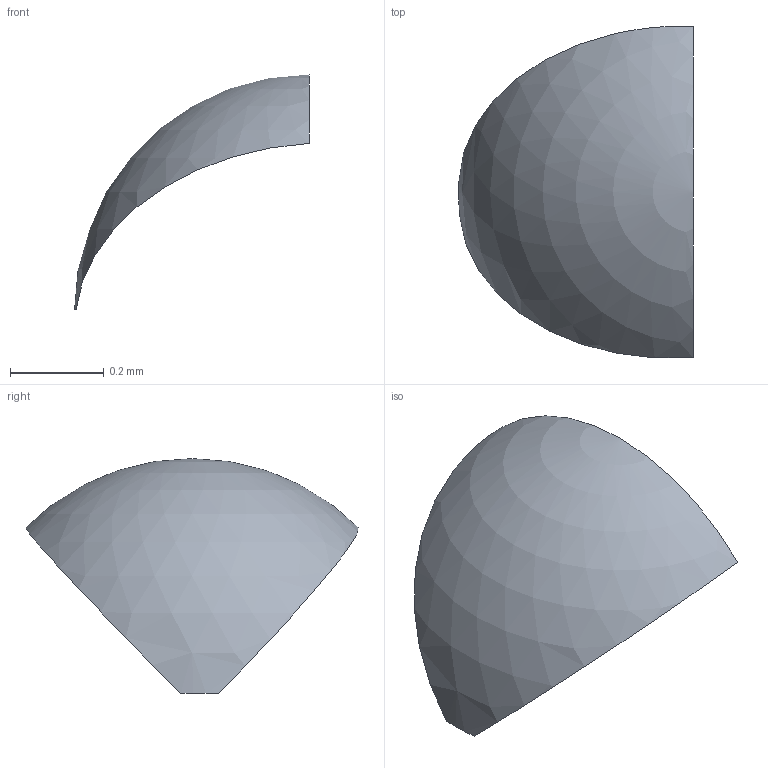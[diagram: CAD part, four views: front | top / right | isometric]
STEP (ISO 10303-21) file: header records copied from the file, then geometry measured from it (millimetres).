
FILE_DESCRIPTION(('BRL-CAD AP203 shifted four-arc spherical cap fixture'),'2;1');
FILE_NAME('ap203_shifted_four_arc_spherical_cap.stp','2026-07-23T00:00:00',('BRL-CAD'),('BRL-CAD'),'','','');
FILE_SCHEMA(('CONFIG_CONTROL_DESIGN'));
Length unit declared in the file: millimetre
Products named in the file (1): shifted_four_arc_spherical_cap
Bounding box: 0.5 x 0.71 x 0.5 mm (x, y, z)
Surface area: 0.8 mm2 (no closed solid volume)
Topology: 1 solids, 1 shells, 2 faces, 7 edges, 5 vertices
Faces by surface type: sphere 2
Entity records: 64 total; most frequent: DIRECTION 10, ORIENTED_EDGE 8, CARTESIAN_POINT 5, AXIS2_PLACEMENT_3D 5, VERTEX_POINT 4, CIRCLE 4, EDGE_CURVE 4, EDGE_LOOP 2
